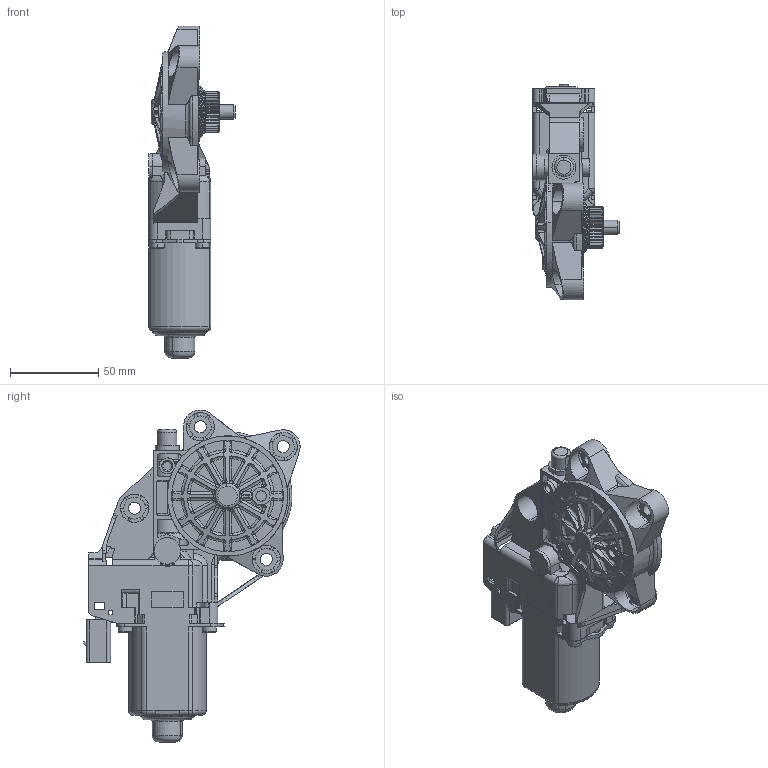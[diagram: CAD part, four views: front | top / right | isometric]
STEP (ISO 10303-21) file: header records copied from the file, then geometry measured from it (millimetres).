
FILE_DESCRIPTION(('CATIA V5 STEP Exchange'),'2;1');
FILE_NAME('E:\catcqev5\Result_Tmp\0546695\0546695~CATIAV52STEP~0130822489_AA.stp','2012-03-19T13:26:28+00:00',('none'),('none'),'CATIA Version 5 Release 19 SP 3 (IN-10)','CATIA V5 STEP AP214','none');
FILE_SCHEMA(('AUTOMOTIVE_DESIGN { 1 0 10303 214 1 1 1 1 }'));
Length unit declared in the file: millimetre
Products named in the file (1): 0130822489_AA-Katalog
Bounding box: 48.71 x 122.15 x 187.59 mm (x, y, z)
Volume: 272889.1 mm3; surface area: 56737.1 mm2
Topology: 1 solids, 3 shells, 1771 faces, 5070 edges, 3253 vertices
Faces by surface type: cylinder 655, plane 541, bspline 384, torus 129, cone 62
Entity records: 89338 total; most frequent: CARTESIAN_POINT 49281, ORIENTED_EDGE 9998, DIRECTION 5497, EDGE_CURVE 4999, VERTEX_POINT 3252, AXIS2_PLACEMENT_3D 2464, VECTOR 1896, LINE 1896
